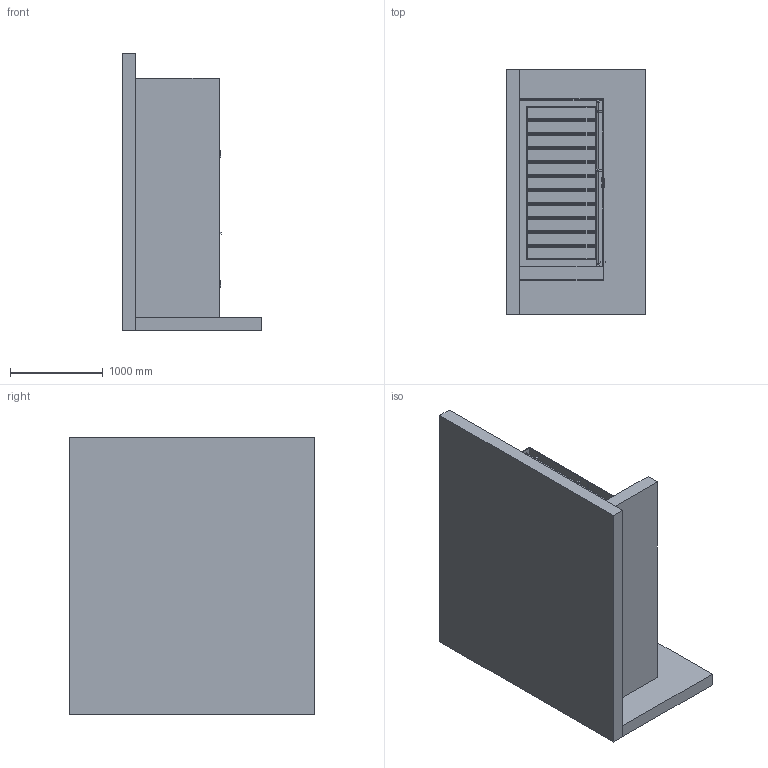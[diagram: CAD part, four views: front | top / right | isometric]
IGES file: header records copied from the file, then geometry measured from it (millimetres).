
Global section: file name: \\Archi-NAS\Comune\X GIOVANNI\SCHEDE PRODOTTO\BOX DOCCIA\DISEGNI 3D\ST 100\MOMA DESIGN_BOX DOCCIA_ST102.igs; native system: Rhinoceros ( Jan 17 2018 ); preprocessor: Trout Lake IGES 012 Jan 17 2018; date: 230623.081956; units: millimetre
Bounding box: 1502.28 x 2641.25 x 2983.36 mm (x, y, z)
Surface area: 48494365.1 mm2 (no closed solid volume)
Topology: 0 solids, 0 shells, 626 faces, 3354 edges, 3236 vertices
Faces by surface type: bspline 626
